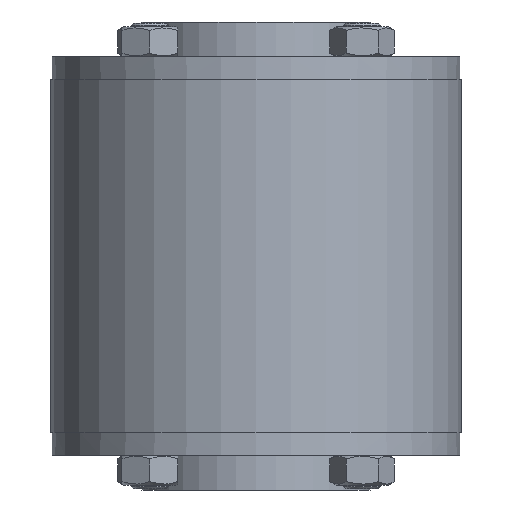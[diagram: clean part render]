
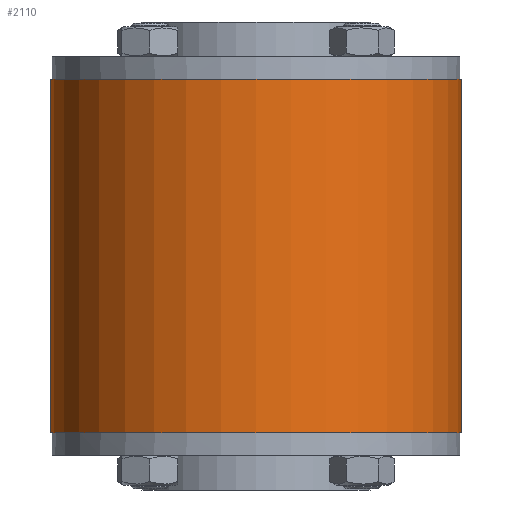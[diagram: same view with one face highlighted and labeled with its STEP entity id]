
A CAD part, left-side view. The second image highlights one B-rep face of the part: STEP entity #2110.
In plain terms, the highlighted cylindrical face has radius 88.25 mm (diameter 176.5 mm), a partial arc.
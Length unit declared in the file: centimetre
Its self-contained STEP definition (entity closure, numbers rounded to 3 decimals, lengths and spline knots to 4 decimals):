
#259=CYLINDRICAL_SURFACE('',#2275,8.825);
#289=FACE_OUTER_BOUND('',#439,.T.);
#439=EDGE_LOOP('',(#1383,#1384,#1385,#1386));
#691=LINE('',#3086,#755);
#694=LINE('',#3095,#758);
#755=VECTOR('',#2527,15.2);
#758=VECTOR('',#2538,15.2);
#816=CIRCLE('',#2269,8.825);
#818=CIRCLE('',#2273,8.825);
#913=VERTEX_POINT('',#3076);
#914=VERTEX_POINT('',#3078);
#916=VERTEX_POINT('',#3084);
#918=VERTEX_POINT('',#3090);
#1113=EDGE_CURVE('',#913,#914,#816,.T.);
#1117=EDGE_CURVE('',#916,#913,#691,.T.);
#1120=EDGE_CURVE('',#918,#916,#818,.T.);
#1122=EDGE_CURVE('',#914,#918,#694,.T.);
#1383=ORIENTED_EDGE('',*,*,#1122,.F.);
#1384=ORIENTED_EDGE('',*,*,#1113,.F.);
#1385=ORIENTED_EDGE('',*,*,#1117,.F.);
#1386=ORIENTED_EDGE('',*,*,#1120,.F.);
#2110=ADVANCED_FACE('',(#289),#259,.T.);
#2269=AXIS2_PLACEMENT_3D('',#3079,#2520,#2521);
#2273=AXIS2_PLACEMENT_3D('',#3092,#2533,#2534);
#2275=AXIS2_PLACEMENT_3D('',#3096,#2539,#2540);
#2520=DIRECTION('center_axis',(0.,0.,-1.));
#2521=DIRECTION('ref_axis',(0.011,1.,0.));
#2527=DIRECTION('',(0.,0.,-1.));
#2533=DIRECTION('center_axis',(0.,0.,1.));
#2534=DIRECTION('ref_axis',(0.011,1.,0.));
#2538=DIRECTION('',(0.,0.,1.));
#2539=DIRECTION('center_axis',(0.,0.,-1.));
#2540=DIRECTION('ref_axis',(0.011,1.,0.));
#3076=CARTESIAN_POINT('',(-0.1,-8.8244,-7.6));
#3078=CARTESIAN_POINT('',(-0.1,8.8244,-7.6));
#3079=CARTESIAN_POINT('Origin',(0.,0.,-7.6));
#3084=CARTESIAN_POINT('',(-0.1,-8.8244,7.6));
#3086=CARTESIAN_POINT('',(-0.1,-8.8244,0.));
#3090=CARTESIAN_POINT('',(-0.1,8.8244,7.6));
#3092=CARTESIAN_POINT('Origin',(0.,0.,7.6));
#3095=CARTESIAN_POINT('',(-0.1,8.8244,0.));
#3096=CARTESIAN_POINT('Origin',(0.,0.,0.));
